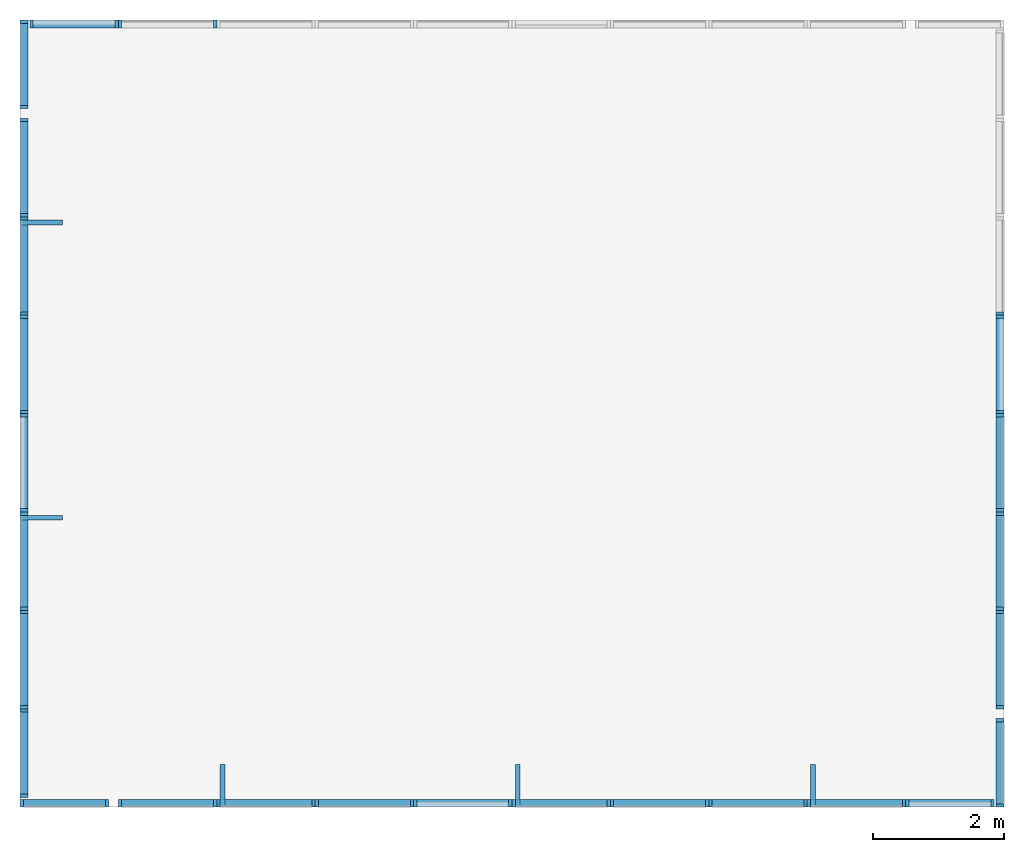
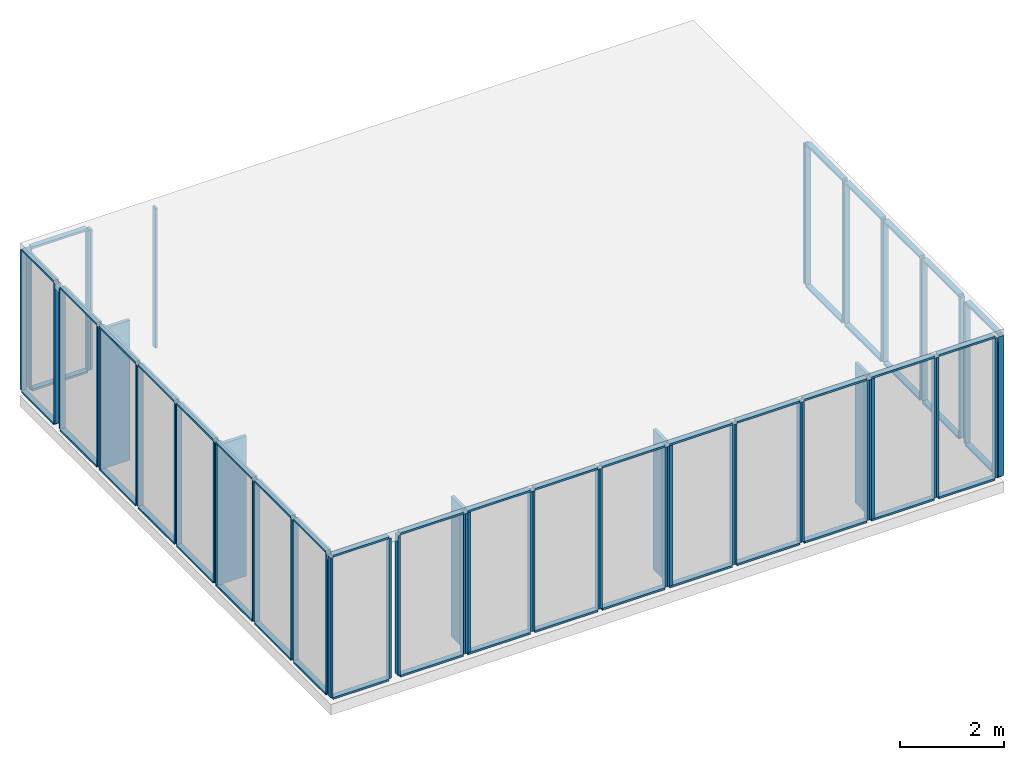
# One storey, part 1 of 2: 104 members.
"""IFC4 building model written with IfcOpenShell, lengths in metres."""

from ifc_helpers import new_model, si_unit, frame, origin_with_axes, place, context, subcontext, project, spatial, indexed_curve, outline, extrude, material, element, save


model = new_model("IFC4")

# Units and contexts
model_context = context("Model", 3, precision=1e-05, world=origin_with_axes())
body_context = subcontext(model_context, "Body", "Model", "MODEL_VIEW")
ifc_project = project(units=[si_unit("AREAUNIT", "SQUARE_METRE"), si_unit("VOLUMEUNIT", "CUBIC_METRE"), si_unit("LENGTHUNIT", "METRE")], contexts=[model_context])

# Site, building, storey
site = spatial("IfcSite", under=ifc_project, Name="Synthetic Site")
building = spatial("IfcBuilding", under=site, Name="Complex Tower")
storey_placement = place(None, frame((0.0, 0.0, 41.4), z_axis=(0.0, 0.0, 1.0), x_axis=(1.0, 0.0, 0.0)))
storey = spatial("IfcBuildingStorey", under=building, at=storey_placement, Name="L12", Elevation=41.4)

# Members
ifc_material = material(Name="Aluminium")
for number, where, z_axis, x_axis, name in (
    (1, (6.0, 3.0, 0.14999999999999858), (0.0, 0.0, 1.0), (1.0, 0.0, 0.0), "CT-L12-S-001-ML"),
    (2, (7.3, 3.0, 0.14999999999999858), (0.0, 0.0, 1.0), (1.0, 0.0, 0.0), "CT-L12-S-001-MR"),
):
    element("IfcMember", number, at=place(storey_placement, frame(where, z_axis=z_axis, x_axis=x_axis)), inside=storey, material=ifc_material, Name=name, PredefinedType="MULLION", context=body_context, shape_type="SweptSolid", body=[
        extrude(outline(indexed_curve([(0.0, 0.0), (0.0, 0.12), (0.05, 0.12), (0.05, 0.0), (0.0, 0.0)], self_intersect=False)), origin_with_axes(), (0.0, 0.0, 1.0), 3.3000000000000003),
    ])
for number, where, z_axis, x_axis, name in (
    (3, (6.05, 3.0, 0.10000000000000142), (0.0, 0.0, 1.0), (1.0, 0.0, 0.0), "CT-L12-S-001-FB"),
    (4, (6.05, 3.0, 3.4499999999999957), (0.0, 0.0, 1.0), (1.0, 0.0, 0.0), "CT-L12-S-001-FT"),
):
    element("IfcMember", number, at=place(storey_placement, frame(where, z_axis=z_axis, x_axis=x_axis)), inside=storey, material=ifc_material, Name=name, PredefinedType="MULLION", context=body_context, shape_type="SweptSolid", body=[
        extrude(outline(indexed_curve([(0.0, 0.0), (0.0, 0.12), (1.25, 0.12), (1.25, 0.0), (0.0, 0.0)], self_intersect=False)), origin_with_axes(), (0.0, 0.0, 1.0), 0.05),
    ])
for number, where, z_axis, x_axis, name in (
    (5, (7.5, 3.0, 0.14999999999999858), (0.0, 0.0, 1.0), (1.0, 0.0, 0.0), "CT-L12-S-002-ML"),
    (6, (8.95, 3.0, 0.14999999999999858), (0.0, 0.0, 1.0), (1.0, 0.0, 0.0), "CT-L12-S-002-MR"),
):
    element("IfcMember", number, at=place(storey_placement, frame(where, z_axis=z_axis, x_axis=x_axis)), inside=storey, material=ifc_material, Name=name, PredefinedType="MULLION", context=body_context, shape_type="SweptSolid", body=[
        extrude(outline(indexed_curve([(0.0, 0.0), (0.0, 0.12), (0.05, 0.12), (0.05, 0.0), (0.0, 0.0)], self_intersect=False)), origin_with_axes(), (0.0, 0.0, 1.0), 3.3000000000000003),
    ])
for number, where, z_axis, x_axis, name in (
    (7, (7.55, 3.0, 0.10000000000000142), (0.0, 0.0, 1.0), (1.0, 0.0, 0.0), "CT-L12-S-002-FB"),
    (8, (7.55, 3.0, 3.4499999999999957), (0.0, 0.0, 1.0), (1.0, 0.0, 0.0), "CT-L12-S-002-FT"),
):
    element("IfcMember", number, at=place(storey_placement, frame(where, z_axis=z_axis, x_axis=x_axis)), inside=storey, material=ifc_material, Name=name, PredefinedType="MULLION", context=body_context, shape_type="SweptSolid", body=[
        extrude(outline(indexed_curve([(0.0, 0.0), (0.0, 0.12), (1.4, 0.12), (1.4, 0.0), (0.0, 0.0)], self_intersect=False)), origin_with_axes(), (0.0, 0.0, 1.0), 0.05),
    ])
for number, where, z_axis, x_axis, name in (
    (9, (9.0, 3.0, 0.14999999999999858), (0.0, 0.0, 1.0), (1.0, 0.0, 0.0), "CT-L12-S-003-ML"),
    (10, (10.450000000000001, 3.0, 0.14999999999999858), (0.0, 0.0, 1.0), (1.0, 0.0, 0.0), "CT-L12-S-003-MR"),
):
    element("IfcMember", number, at=place(storey_placement, frame(where, z_axis=z_axis, x_axis=x_axis)), inside=storey, material=ifc_material, Name=name, PredefinedType="MULLION", context=body_context, shape_type="SweptSolid", body=[
        extrude(outline(indexed_curve([(0.0, 0.0), (0.0, 0.12), (0.05, 0.12), (0.05, 0.0), (0.0, 0.0)], self_intersect=False)), origin_with_axes(), (0.0, 0.0, 1.0), 3.3000000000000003),
    ])
for number, where, z_axis, x_axis, name in (
    (11, (9.05, 3.0, 0.10000000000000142), (0.0, 0.0, 1.0), (1.0, 0.0, 0.0), "CT-L12-S-003-FB"),
    (12, (9.05, 3.0, 3.4499999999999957), (0.0, 0.0, 1.0), (1.0, 0.0, 0.0), "CT-L12-S-003-FT"),
):
    element("IfcMember", number, at=place(storey_placement, frame(where, z_axis=z_axis, x_axis=x_axis)), inside=storey, material=ifc_material, Name=name, PredefinedType="MULLION", context=body_context, shape_type="SweptSolid", body=[
        extrude(outline(indexed_curve([(0.0, 0.0), (0.0, 0.12), (1.4, 0.12), (1.4, 0.0), (0.0, 0.0)], self_intersect=False)), origin_with_axes(), (0.0, 0.0, 1.0), 0.05),
    ])
member_1_placement = place(storey_placement, frame((9.05, 3.0, 0.14999999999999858), z_axis=(0.0, 0.0, 1.0), x_axis=(1.0, 0.0, 0.0)))
element("IfcMember", 13, at=member_1_placement, inside=storey, material=ifc_material, Name="CT-L12-S-003-FIN", ObjectType="Solar shading", PredefinedType="USERDEFINED", context=body_context, shape_type="SweptSolid", body=[
    extrude(outline(indexed_curve([(0.0, 0.0), (0.0, 0.65), (0.075, 0.65), (0.075, 0.0), (0.0, 0.0)], self_intersect=False)), origin_with_axes(), (0.0, 0.0, 1.0), 3.3000000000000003),
])
for number, where, z_axis, x_axis, name in (
    (14, (10.5, 3.0, 0.14999999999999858), (0.0, 0.0, 1.0), (1.0, 0.0, 0.0), "CT-L12-S-004-ML"),
    (15, (11.950000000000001, 3.0, 0.14999999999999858), (0.0, 0.0, 1.0), (1.0, 0.0, 0.0), "CT-L12-S-004-MR"),
):
    element("IfcMember", number, at=place(storey_placement, frame(where, z_axis=z_axis, x_axis=x_axis)), inside=storey, material=ifc_material, Name=name, PredefinedType="MULLION", context=body_context, shape_type="SweptSolid", body=[
        extrude(outline(indexed_curve([(0.0, 0.0), (0.0, 0.12), (0.05, 0.12), (0.05, 0.0), (0.0, 0.0)], self_intersect=False)), origin_with_axes(), (0.0, 0.0, 1.0), 3.3000000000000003),
    ])
for number, where, z_axis, x_axis, name in (
    (16, (10.55, 3.0, 0.10000000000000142), (0.0, 0.0, 1.0), (1.0, 0.0, 0.0), "CT-L12-S-004-FB"),
    (17, (10.55, 3.0, 3.4499999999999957), (0.0, 0.0, 1.0), (1.0, 0.0, 0.0), "CT-L12-S-004-FT"),
):
    element("IfcMember", number, at=place(storey_placement, frame(where, z_axis=z_axis, x_axis=x_axis)), inside=storey, material=ifc_material, Name=name, PredefinedType="MULLION", context=body_context, shape_type="SweptSolid", body=[
        extrude(outline(indexed_curve([(0.0, 0.0), (0.0, 0.12), (1.4, 0.12), (1.4, 0.0), (0.0, 0.0)], self_intersect=False)), origin_with_axes(), (0.0, 0.0, 1.0), 0.05),
    ])
for number, where, z_axis, x_axis, name in (
    (18, (12.0, 3.0, 0.14999999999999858), (0.0, 0.0, 1.0), (1.0, 0.0, 0.0), "CT-L12-S-005-ML"),
    (19, (13.450000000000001, 3.0, 0.14999999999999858), (0.0, 0.0, 1.0), (1.0, 0.0, 0.0), "CT-L12-S-005-MR"),
):
    element("IfcMember", number, at=place(storey_placement, frame(where, z_axis=z_axis, x_axis=x_axis)), inside=storey, material=ifc_material, Name=name, PredefinedType="MULLION", context=body_context, shape_type="SweptSolid", body=[
        extrude(outline(indexed_curve([(0.0, 0.0), (0.0, 0.12), (0.05, 0.12), (0.05, 0.0), (0.0, 0.0)], self_intersect=False)), origin_with_axes(), (0.0, 0.0, 1.0), 3.3000000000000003),
    ])
for number, where, z_axis, x_axis, name in (
    (20, (12.05, 3.0, 0.10000000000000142), (0.0, 0.0, 1.0), (1.0, 0.0, 0.0), "CT-L12-S-005-FB"),
    (21, (12.05, 3.0, 3.4499999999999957), (0.0, 0.0, 1.0), (1.0, 0.0, 0.0), "CT-L12-S-005-FT"),
):
    element("IfcMember", number, at=place(storey_placement, frame(where, z_axis=z_axis, x_axis=x_axis)), inside=storey, material=ifc_material, Name=name, PredefinedType="MULLION", context=body_context, shape_type="SweptSolid", body=[
        extrude(outline(indexed_curve([(0.0, 0.0), (0.0, 0.12), (1.4, 0.12), (1.4, 0.0), (0.0, 0.0)], self_intersect=False)), origin_with_axes(), (0.0, 0.0, 1.0), 0.05),
    ])
for number, where, z_axis, x_axis, name in (
    (22, (13.5, 3.0, 0.14999999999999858), (0.0, 0.0, 1.0), (1.0, 0.0, 0.0), "CT-L12-S-006-ML"),
    (23, (14.950000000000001, 3.0, 0.14999999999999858), (0.0, 0.0, 1.0), (1.0, 0.0, 0.0), "CT-L12-S-006-MR"),
):
    element("IfcMember", number, at=place(storey_placement, frame(where, z_axis=z_axis, x_axis=x_axis)), inside=storey, material=ifc_material, Name=name, PredefinedType="MULLION", context=body_context, shape_type="SweptSolid", body=[
        extrude(outline(indexed_curve([(0.0, 0.0), (0.0, 0.12), (0.05, 0.12), (0.05, 0.0), (0.0, 0.0)], self_intersect=False)), origin_with_axes(), (0.0, 0.0, 1.0), 3.3000000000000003),
    ])
for number, where, z_axis, x_axis, name in (
    (24, (13.55, 3.0, 0.10000000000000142), (0.0, 0.0, 1.0), (1.0, 0.0, 0.0), "CT-L12-S-006-FB"),
    (25, (13.55, 3.0, 3.4499999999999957), (0.0, 0.0, 1.0), (1.0, 0.0, 0.0), "CT-L12-S-006-FT"),
):
    element("IfcMember", number, at=place(storey_placement, frame(where, z_axis=z_axis, x_axis=x_axis)), inside=storey, material=ifc_material, Name=name, PredefinedType="MULLION", context=body_context, shape_type="SweptSolid", body=[
        extrude(outline(indexed_curve([(0.0, 0.0), (0.0, 0.12), (1.4, 0.12), (1.4, 0.0), (0.0, 0.0)], self_intersect=False)), origin_with_axes(), (0.0, 0.0, 1.0), 0.05),
    ])
member_2_placement = place(storey_placement, frame((13.55, 3.0, 0.14999999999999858), z_axis=(0.0, 0.0, 1.0), x_axis=(1.0, 0.0, 0.0)))
element("IfcMember", 26, at=member_2_placement, inside=storey, material=ifc_material, Name="CT-L12-S-006-FIN", ObjectType="Solar shading", PredefinedType="USERDEFINED", context=body_context, shape_type="SweptSolid", body=[
    extrude(outline(indexed_curve([(0.0, 0.0), (0.0, 0.65), (0.075, 0.65), (0.075, 0.0), (0.0, 0.0)], self_intersect=False)), origin_with_axes(), (0.0, 0.0, 1.0), 3.3000000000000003),
])
for number, where, z_axis, x_axis, name in (
    (27, (15.0, 3.0, 0.14999999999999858), (0.0, 0.0, 1.0), (1.0, 0.0, 0.0), "CT-L12-S-007-ML"),
    (28, (16.45, 3.0, 0.14999999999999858), (0.0, 0.0, 1.0), (1.0, 0.0, 0.0), "CT-L12-S-007-MR"),
):
    element("IfcMember", number, at=place(storey_placement, frame(where, z_axis=z_axis, x_axis=x_axis)), inside=storey, material=ifc_material, Name=name, PredefinedType="MULLION", context=body_context, shape_type="SweptSolid", body=[
        extrude(outline(indexed_curve([(0.0, 0.0), (0.0, 0.12), (0.05, 0.12), (0.05, 0.0), (0.0, 0.0)], self_intersect=False)), origin_with_axes(), (0.0, 0.0, 1.0), 3.3000000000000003),
    ])
for number, where, z_axis, x_axis, name in (
    (29, (15.05, 3.0, 0.10000000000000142), (0.0, 0.0, 1.0), (1.0, 0.0, 0.0), "CT-L12-S-007-FB"),
    (30, (15.05, 3.0, 3.4499999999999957), (0.0, 0.0, 1.0), (1.0, 0.0, 0.0), "CT-L12-S-007-FT"),
):
    element("IfcMember", number, at=place(storey_placement, frame(where, z_axis=z_axis, x_axis=x_axis)), inside=storey, material=ifc_material, Name=name, PredefinedType="MULLION", context=body_context, shape_type="SweptSolid", body=[
        extrude(outline(indexed_curve([(0.0, 0.0), (0.0, 0.12), (1.4, 0.12), (1.4, 0.0), (0.0, 0.0)], self_intersect=False)), origin_with_axes(), (0.0, 0.0, 1.0), 0.05),
    ])
for number, where, z_axis, x_axis, name in (
    (31, (16.5, 3.0, 0.14999999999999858), (0.0, 0.0, 1.0), (1.0, 0.0, 0.0), "CT-L12-S-008-ML"),
    (32, (17.95, 3.0, 0.14999999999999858), (0.0, 0.0, 1.0), (1.0, 0.0, 0.0), "CT-L12-S-008-MR"),
):
    element("IfcMember", number, at=place(storey_placement, frame(where, z_axis=z_axis, x_axis=x_axis)), inside=storey, material=ifc_material, Name=name, PredefinedType="MULLION", context=body_context, shape_type="SweptSolid", body=[
        extrude(outline(indexed_curve([(0.0, 0.0), (0.0, 0.12), (0.05, 0.12), (0.05, 0.0), (0.0, 0.0)], self_intersect=False)), origin_with_axes(), (0.0, 0.0, 1.0), 3.3000000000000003),
    ])
for number, where, z_axis, x_axis, name in (
    (33, (16.55, 3.0, 0.10000000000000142), (0.0, 0.0, 1.0), (1.0, 0.0, 0.0), "CT-L12-S-008-FB"),
    (34, (16.55, 3.0, 3.4499999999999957), (0.0, 0.0, 1.0), (1.0, 0.0, 0.0), "CT-L12-S-008-FT"),
):
    element("IfcMember", number, at=place(storey_placement, frame(where, z_axis=z_axis, x_axis=x_axis)), inside=storey, material=ifc_material, Name=name, PredefinedType="MULLION", context=body_context, shape_type="SweptSolid", body=[
        extrude(outline(indexed_curve([(0.0, 0.0), (0.0, 0.12), (1.4, 0.12), (1.4, 0.0), (0.0, 0.0)], self_intersect=False)), origin_with_axes(), (0.0, 0.0, 1.0), 0.05),
    ])
for number, where, z_axis, x_axis, name in (
    (35, (18.0, 3.0, 0.14999999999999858), (0.0, 0.0, 1.0), (1.0, 0.0, 0.0), "CT-L12-S-009-ML"),
    (36, (19.45, 3.0, 0.14999999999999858), (0.0, 0.0, 1.0), (1.0, 0.0, 0.0), "CT-L12-S-009-MR"),
):
    element("IfcMember", number, at=place(storey_placement, frame(where, z_axis=z_axis, x_axis=x_axis)), inside=storey, material=ifc_material, Name=name, PredefinedType="MULLION", context=body_context, shape_type="SweptSolid", body=[
        extrude(outline(indexed_curve([(0.0, 0.0), (0.0, 0.12), (0.05, 0.12), (0.05, 0.0), (0.0, 0.0)], self_intersect=False)), origin_with_axes(), (0.0, 0.0, 1.0), 3.3000000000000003),
    ])
for number, where, z_axis, x_axis, name in (
    (37, (18.05, 3.0, 0.10000000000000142), (0.0, 0.0, 1.0), (1.0, 0.0, 0.0), "CT-L12-S-009-FB"),
    (38, (18.05, 3.0, 3.4499999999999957), (0.0, 0.0, 1.0), (1.0, 0.0, 0.0), "CT-L12-S-009-FT"),
):
    element("IfcMember", number, at=place(storey_placement, frame(where, z_axis=z_axis, x_axis=x_axis)), inside=storey, material=ifc_material, Name=name, PredefinedType="MULLION", context=body_context, shape_type="SweptSolid", body=[
        extrude(outline(indexed_curve([(0.0, 0.0), (0.0, 0.12), (1.4, 0.12), (1.4, 0.0), (0.0, 0.0)], self_intersect=False)), origin_with_axes(), (0.0, 0.0, 1.0), 0.05),
    ])
member_3_placement = place(storey_placement, frame((18.05, 3.0, 0.14999999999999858), z_axis=(0.0, 0.0, 1.0), x_axis=(1.0, 0.0, 0.0)))
element("IfcMember", 39, at=member_3_placement, inside=storey, material=ifc_material, Name="CT-L12-S-009-FIN", ObjectType="Solar shading", PredefinedType="USERDEFINED", context=body_context, shape_type="SweptSolid", body=[
    extrude(outline(indexed_curve([(0.0, 0.0), (0.0, 0.65), (0.075, 0.65), (0.075, 0.0), (0.0, 0.0)], self_intersect=False)), origin_with_axes(), (0.0, 0.0, 1.0), 3.3000000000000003),
])
for number, where, z_axis, x_axis, name in (
    (40, (19.5, 3.0, 0.14999999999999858), (0.0, 0.0, 1.0), (1.0, 0.0, 0.0), "CT-L12-S-010-ML"),
    (41, (20.8, 3.0, 0.14999999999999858), (0.0, 0.0, 1.0), (1.0, 0.0, 0.0), "CT-L12-S-010-MR"),
):
    element("IfcMember", number, at=place(storey_placement, frame(where, z_axis=z_axis, x_axis=x_axis)), inside=storey, material=ifc_material, Name=name, PredefinedType="MULLION", context=body_context, shape_type="SweptSolid", body=[
        extrude(outline(indexed_curve([(0.0, 0.0), (0.0, 0.12), (0.05, 0.12), (0.05, 0.0), (0.0, 0.0)], self_intersect=False)), origin_with_axes(), (0.0, 0.0, 1.0), 3.3000000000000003),
    ])
for number, where, z_axis, x_axis, name in (
    (42, (19.55, 3.0, 0.10000000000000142), (0.0, 0.0, 1.0), (1.0, 0.0, 0.0), "CT-L12-S-010-FB"),
    (43, (19.55, 3.0, 3.4499999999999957), (0.0, 0.0, 1.0), (1.0, 0.0, 0.0), "CT-L12-S-010-FT"),
):
    element("IfcMember", number, at=place(storey_placement, frame(where, z_axis=z_axis, x_axis=x_axis)), inside=storey, material=ifc_material, Name=name, PredefinedType="MULLION", context=body_context, shape_type="SweptSolid", body=[
        extrude(outline(indexed_curve([(0.0, 0.0), (0.0, 0.12), (1.25, 0.12), (1.25, 0.0), (0.0, 0.0)], self_intersect=False)), origin_with_axes(), (0.0, 0.0, 1.0), 0.05),
    ])
for number, where, z_axis, x_axis, name in (
    (44, (21.0, 3.0, 0.14999999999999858), (0.0, 0.0, 1.0), (6.123233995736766e-17, 1.0, 0.0), "CT-L12-E-001-ML"),
    (45, (21.0, 4.3, 0.14999999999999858), (0.0, 0.0, 1.0), (6.123233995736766e-17, 1.0, 0.0), "CT-L12-E-001-MR"),
):
    element("IfcMember", number, at=place(storey_placement, frame(where, z_axis=z_axis, x_axis=x_axis)), inside=storey, material=ifc_material, Name=name, PredefinedType="MULLION", context=body_context, shape_type="SweptSolid", body=[
        extrude(outline(indexed_curve([(0.0, 0.0), (0.0, 0.12), (0.05, 0.12), (0.05, 0.0), (0.0, 0.0)], self_intersect=False)), origin_with_axes(), (0.0, 0.0, 1.0), 3.3000000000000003),
    ])
for number, where, z_axis, x_axis, name in (
    (46, (21.0, 3.05, 0.10000000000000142), (0.0, 0.0, 1.0), (6.123233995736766e-17, 1.0, 0.0), "CT-L12-E-001-FB"),
    (47, (21.0, 3.05, 3.4499999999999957), (0.0, 0.0, 1.0), (6.123233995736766e-17, 1.0, 0.0), "CT-L12-E-001-FT"),
):
    element("IfcMember", number, at=place(storey_placement, frame(where, z_axis=z_axis, x_axis=x_axis)), inside=storey, material=ifc_material, Name=name, PredefinedType="MULLION", context=body_context, shape_type="SweptSolid", body=[
        extrude(outline(indexed_curve([(0.0, 0.0), (0.0, 0.12), (1.25, 0.12), (1.25, 0.0), (0.0, 0.0)], self_intersect=False)), origin_with_axes(), (0.0, 0.0, 1.0), 0.05),
    ])
for number, where, z_axis, x_axis, name in (
    (48, (21.0, 4.5, 0.14999999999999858), (0.0, 0.0, 1.0), (6.123233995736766e-17, 1.0, 0.0), "CT-L12-E-002-ML"),
    (49, (21.0, 5.949999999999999, 0.14999999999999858), (0.0, 0.0, 1.0), (6.123233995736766e-17, 1.0, 0.0), "CT-L12-E-002-MR"),
):
    element("IfcMember", number, at=place(storey_placement, frame(where, z_axis=z_axis, x_axis=x_axis)), inside=storey, material=ifc_material, Name=name, PredefinedType="MULLION", context=body_context, shape_type="SweptSolid", body=[
        extrude(outline(indexed_curve([(0.0, 0.0), (0.0, 0.12), (0.05, 0.12), (0.05, 0.0), (0.0, 0.0)], self_intersect=False)), origin_with_axes(), (0.0, 0.0, 1.0), 3.3000000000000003),
    ])
for number, where, z_axis, x_axis, name in (
    (50, (21.0, 4.55, 0.10000000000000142), (0.0, 0.0, 1.0), (6.123233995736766e-17, 1.0, 0.0), "CT-L12-E-002-FB"),
    (51, (21.0, 4.55, 3.4499999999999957), (0.0, 0.0, 1.0), (6.123233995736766e-17, 1.0, 0.0), "CT-L12-E-002-FT"),
):
    element("IfcMember", number, at=place(storey_placement, frame(where, z_axis=z_axis, x_axis=x_axis)), inside=storey, material=ifc_material, Name=name, PredefinedType="MULLION", context=body_context, shape_type="SweptSolid", body=[
        extrude(outline(indexed_curve([(0.0, 0.0), (0.0, 0.12), (1.4, 0.12), (1.4, 0.0), (0.0, 0.0)], self_intersect=False)), origin_with_axes(), (0.0, 0.0, 1.0), 0.05),
    ])
for number, where, z_axis, x_axis, name in (
    (52, (21.0, 6.0, 0.14999999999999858), (0.0, 0.0, 1.0), (6.123233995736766e-17, 1.0, 0.0), "CT-L12-E-003-ML"),
    (53, (21.0, 7.449999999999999, 0.14999999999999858), (0.0, 0.0, 1.0), (6.123233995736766e-17, 1.0, 0.0), "CT-L12-E-003-MR"),
):
    element("IfcMember", number, at=place(storey_placement, frame(where, z_axis=z_axis, x_axis=x_axis)), inside=storey, material=ifc_material, Name=name, PredefinedType="MULLION", context=body_context, shape_type="SweptSolid", body=[
        extrude(outline(indexed_curve([(0.0, 0.0), (0.0, 0.12), (0.05, 0.12), (0.05, 0.0), (0.0, 0.0)], self_intersect=False)), origin_with_axes(), (0.0, 0.0, 1.0), 3.3000000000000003),
    ])
for number, where, z_axis, x_axis, name in (
    (54, (21.0, 6.05, 0.10000000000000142), (0.0, 0.0, 1.0), (6.123233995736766e-17, 1.0, 0.0), "CT-L12-E-003-FB"),
    (55, (21.0, 6.05, 3.4499999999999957), (0.0, 0.0, 1.0), (6.123233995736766e-17, 1.0, 0.0), "CT-L12-E-003-FT"),
):
    element("IfcMember", number, at=place(storey_placement, frame(where, z_axis=z_axis, x_axis=x_axis)), inside=storey, material=ifc_material, Name=name, PredefinedType="MULLION", context=body_context, shape_type="SweptSolid", body=[
        extrude(outline(indexed_curve([(0.0, 0.0), (0.0, 0.12), (1.4, 0.12), (1.4, 0.0), (0.0, 0.0)], self_intersect=False)), origin_with_axes(), (0.0, 0.0, 1.0), 0.05),
    ])
for number, where, z_axis, x_axis, name in (
    (56, (21.0, 7.5, 0.14999999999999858), (0.0, 0.0, 1.0), (6.123233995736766e-17, 1.0, 0.0), "CT-L12-E-004-ML"),
    (57, (21.0, 8.95, 0.14999999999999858), (0.0, 0.0, 1.0), (6.123233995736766e-17, 1.0, 0.0), "CT-L12-E-004-MR"),
):
    element("IfcMember", number, at=place(storey_placement, frame(where, z_axis=z_axis, x_axis=x_axis)), inside=storey, material=ifc_material, Name=name, PredefinedType="MULLION", context=body_context, shape_type="SweptSolid", body=[
        extrude(outline(indexed_curve([(0.0, 0.0), (0.0, 0.12), (0.05, 0.12), (0.05, 0.0), (0.0, 0.0)], self_intersect=False)), origin_with_axes(), (0.0, 0.0, 1.0), 3.3000000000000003),
    ])
for number, where, z_axis, x_axis, name in (
    (58, (21.0, 7.55, 0.10000000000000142), (0.0, 0.0, 1.0), (6.123233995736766e-17, 1.0, 0.0), "CT-L12-E-004-FB"),
    (59, (21.0, 7.55, 3.4499999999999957), (0.0, 0.0, 1.0), (6.123233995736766e-17, 1.0, 0.0), "CT-L12-E-004-FT"),
):
    element("IfcMember", number, at=place(storey_placement, frame(where, z_axis=z_axis, x_axis=x_axis)), inside=storey, material=ifc_material, Name=name, PredefinedType="MULLION", context=body_context, shape_type="SweptSolid", body=[
        extrude(outline(indexed_curve([(0.0, 0.0), (0.0, 0.12), (1.4, 0.12), (1.4, 0.0), (0.0, 0.0)], self_intersect=False)), origin_with_axes(), (0.0, 0.0, 1.0), 0.05),
    ])
for number, where, z_axis, x_axis, name in (
    (60, (21.0, 9.0, 0.14999999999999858), (0.0, 0.0, 1.0), (6.123233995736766e-17, 1.0, 0.0), "CT-L12-E-005-ML"),
    (61, (21.0, 10.450000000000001, 0.14999999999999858), (0.0, 0.0, 1.0), (6.123233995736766e-17, 1.0, 0.0), "CT-L12-E-005-MR"),
):
    element("IfcMember", number, at=place(storey_placement, frame(where, z_axis=z_axis, x_axis=x_axis)), inside=storey, material=ifc_material, Name=name, PredefinedType="MULLION", context=body_context, shape_type="SweptSolid", body=[
        extrude(outline(indexed_curve([(0.0, 0.0), (0.0, 0.12), (0.05, 0.12), (0.05, 0.0), (0.0, 0.0)], self_intersect=False)), origin_with_axes(), (0.0, 0.0, 1.0), 3.3000000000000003),
    ])
for number, where, z_axis, x_axis, name in (
    (62, (21.0, 9.05, 0.10000000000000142), (0.0, 0.0, 1.0), (6.123233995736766e-17, 1.0, 0.0), "CT-L12-E-005-FB"),
    (63, (21.0, 9.05, 3.4499999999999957), (0.0, 0.0, 1.0), (6.123233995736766e-17, 1.0, 0.0), "CT-L12-E-005-FT"),
):
    element("IfcMember", number, at=place(storey_placement, frame(where, z_axis=z_axis, x_axis=x_axis)), inside=storey, material=ifc_material, Name=name, PredefinedType="MULLION", context=body_context, shape_type="SweptSolid", body=[
        extrude(outline(indexed_curve([(0.0, 0.0), (0.0, 0.12), (1.4, 0.12), (1.4, 0.0), (0.0, 0.0)], self_intersect=False)), origin_with_axes(), (0.0, 0.0, 1.0), 0.05),
    ])
for number, where, z_axis, x_axis, name in (
    (64, (21.0, 10.5, 0.14999999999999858), (0.0, 0.0, 1.0), (6.123233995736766e-17, 1.0, 0.0), "CT-L12-E-006-ML"),
    (65, (9.0, 15.000000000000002, 0.14999999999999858), (0.0, 0.0, 1.0), (-1.0, 1.2246467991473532e-16, 0.0), "CT-L12-N-009-ML"),
    (66, (7.549999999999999, 15.000000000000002, 0.14999999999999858), (0.0, 0.0, 1.0), (-1.0, 1.2246467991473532e-16, 0.0), "CT-L12-N-009-MR"),
    (67, (7.499999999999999, 15.000000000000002, 0.14999999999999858), (0.0, 0.0, 1.0), (-1.0, 1.2246467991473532e-16, 0.0), "CT-L12-N-010-ML"),
    (68, (6.199999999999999, 15.000000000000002, 0.14999999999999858), (0.0, 0.0, 1.0), (-1.0, 1.2246467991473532e-16, 0.0), "CT-L12-N-010-MR"),
):
    element("IfcMember", number, at=place(storey_placement, frame(where, z_axis=z_axis, x_axis=x_axis)), inside=storey, material=ifc_material, Name=name, PredefinedType="MULLION", context=body_context, shape_type="SweptSolid", body=[
        extrude(outline(indexed_curve([(0.0, 0.0), (0.0, 0.12), (0.05, 0.12), (0.05, 0.0), (0.0, 0.0)], self_intersect=False)), origin_with_axes(), (0.0, 0.0, 1.0), 3.3000000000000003),
    ])
for number, where, z_axis, x_axis, name in (
    (69, (7.449999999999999, 15.000000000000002, 0.10000000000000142), (0.0, 0.0, 1.0), (-1.0, 1.2246467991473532e-16, 0.0), "CT-L12-N-010-FB"),
    (70, (7.449999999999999, 15.000000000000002, 3.4499999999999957), (0.0, 0.0, 1.0), (-1.0, 1.2246467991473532e-16, 0.0), "CT-L12-N-010-FT"),
):
    element("IfcMember", number, at=place(storey_placement, frame(where, z_axis=z_axis, x_axis=x_axis)), inside=storey, material=ifc_material, Name=name, PredefinedType="MULLION", context=body_context, shape_type="SweptSolid", body=[
        extrude(outline(indexed_curve([(0.0, 0.0), (0.0, 0.12), (1.25, 0.12), (1.25, 0.0), (0.0, 0.0)], self_intersect=False)), origin_with_axes(), (0.0, 0.0, 1.0), 0.05),
    ])
for number, where, z_axis, x_axis, name in (
    (71, (6.0, 15.0, 0.14999999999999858), (0.0, 0.0, 1.0), (-1.8369701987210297e-16, -1.0, 0.0), "CT-L12-W-001-ML"),
    (72, (6.0, 13.7, 0.14999999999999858), (0.0, 0.0, 1.0), (-1.8369701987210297e-16, -1.0, 0.0), "CT-L12-W-001-MR"),
):
    element("IfcMember", number, at=place(storey_placement, frame(where, z_axis=z_axis, x_axis=x_axis)), inside=storey, material=ifc_material, Name=name, PredefinedType="MULLION", context=body_context, shape_type="SweptSolid", body=[
        extrude(outline(indexed_curve([(0.0, 0.0), (0.0, 0.12), (0.05, 0.12), (0.05, 0.0), (0.0, 0.0)], self_intersect=False)), origin_with_axes(), (0.0, 0.0, 1.0), 3.3000000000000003),
    ])
for number, where, z_axis, x_axis, name in (
    (73, (6.0, 14.95, 0.10000000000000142), (0.0, 0.0, 1.0), (-1.8369701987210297e-16, -1.0, 0.0), "CT-L12-W-001-FB"),
    (74, (6.0, 14.95, 3.4499999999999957), (0.0, 0.0, 1.0), (-1.8369701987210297e-16, -1.0, 0.0), "CT-L12-W-001-FT"),
):
    element("IfcMember", number, at=place(storey_placement, frame(where, z_axis=z_axis, x_axis=x_axis)), inside=storey, material=ifc_material, Name=name, PredefinedType="MULLION", context=body_context, shape_type="SweptSolid", body=[
        extrude(outline(indexed_curve([(0.0, 0.0), (0.0, 0.12), (1.25, 0.12), (1.25, 0.0), (0.0, 0.0)], self_intersect=False)), origin_with_axes(), (0.0, 0.0, 1.0), 0.05),
    ])
for number, where, z_axis, x_axis, name in (
    (75, (6.0, 13.5, 0.14999999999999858), (0.0, 0.0, 1.0), (-1.8369701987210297e-16, -1.0, 0.0), "CT-L12-W-002-ML"),
    (76, (6.0, 12.049999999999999, 0.14999999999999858), (0.0, 0.0, 1.0), (-1.8369701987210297e-16, -1.0, 0.0), "CT-L12-W-002-MR"),
):
    element("IfcMember", number, at=place(storey_placement, frame(where, z_axis=z_axis, x_axis=x_axis)), inside=storey, material=ifc_material, Name=name, PredefinedType="MULLION", context=body_context, shape_type="SweptSolid", body=[
        extrude(outline(indexed_curve([(0.0, 0.0), (0.0, 0.12), (0.05, 0.12), (0.05, 0.0), (0.0, 0.0)], self_intersect=False)), origin_with_axes(), (0.0, 0.0, 1.0), 3.3000000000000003),
    ])
for number, where, z_axis, x_axis, name in (
    (77, (6.0, 13.45, 0.10000000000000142), (0.0, 0.0, 1.0), (-1.8369701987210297e-16, -1.0, 0.0), "CT-L12-W-002-FB"),
    (78, (6.0, 13.45, 3.4499999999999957), (0.0, 0.0, 1.0), (-1.8369701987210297e-16, -1.0, 0.0), "CT-L12-W-002-FT"),
):
    element("IfcMember", number, at=place(storey_placement, frame(where, z_axis=z_axis, x_axis=x_axis)), inside=storey, material=ifc_material, Name=name, PredefinedType="MULLION", context=body_context, shape_type="SweptSolid", body=[
        extrude(outline(indexed_curve([(0.0, 0.0), (0.0, 0.12), (1.4, 0.12), (1.4, 0.0), (0.0, 0.0)], self_intersect=False)), origin_with_axes(), (0.0, 0.0, 1.0), 0.05),
    ])
for number, where, z_axis, x_axis, name in (
    (79, (5.999999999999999, 12.0, 0.14999999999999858), (0.0, 0.0, 1.0), (-1.8369701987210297e-16, -1.0, 0.0), "CT-L12-W-003-ML"),
    (80, (5.999999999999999, 10.549999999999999, 0.14999999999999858), (0.0, 0.0, 1.0), (-1.8369701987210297e-16, -1.0, 0.0), "CT-L12-W-003-MR"),
):
    element("IfcMember", number, at=place(storey_placement, frame(where, z_axis=z_axis, x_axis=x_axis)), inside=storey, material=ifc_material, Name=name, PredefinedType="MULLION", context=body_context, shape_type="SweptSolid", body=[
        extrude(outline(indexed_curve([(0.0, 0.0), (0.0, 0.12), (0.05, 0.12), (0.05, 0.0), (0.0, 0.0)], self_intersect=False)), origin_with_axes(), (0.0, 0.0, 1.0), 3.3000000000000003),
    ])
for number, where, z_axis, x_axis, name in (
    (81, (5.999999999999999, 11.95, 0.10000000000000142), (0.0, 0.0, 1.0), (-1.8369701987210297e-16, -1.0, 0.0), "CT-L12-W-003-FB"),
    (82, (5.999999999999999, 11.95, 3.4499999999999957), (0.0, 0.0, 1.0), (-1.8369701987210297e-16, -1.0, 0.0), "CT-L12-W-003-FT"),
):
    element("IfcMember", number, at=place(storey_placement, frame(where, z_axis=z_axis, x_axis=x_axis)), inside=storey, material=ifc_material, Name=name, PredefinedType="MULLION", context=body_context, shape_type="SweptSolid", body=[
        extrude(outline(indexed_curve([(0.0, 0.0), (0.0, 0.12), (1.4, 0.12), (1.4, 0.0), (0.0, 0.0)], self_intersect=False)), origin_with_axes(), (0.0, 0.0, 1.0), 0.05),
    ])
member_4_placement = place(storey_placement, frame((5.999999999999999, 11.95, 0.14999999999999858), z_axis=(0.0, 0.0, 1.0), x_axis=(-1.8369701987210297e-16, -1.0, 0.0)))
element("IfcMember", 83, at=member_4_placement, inside=storey, material=ifc_material, Name="CT-L12-W-003-FIN", ObjectType="Solar shading", PredefinedType="USERDEFINED", context=body_context, shape_type="SweptSolid", body=[
    extrude(outline(indexed_curve([(0.0, 0.0), (0.0, 0.65), (0.075, 0.65), (0.075, 0.0), (0.0, 0.0)], self_intersect=False)), origin_with_axes(), (0.0, 0.0, 1.0), 3.3000000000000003),
])
for number, where, z_axis, x_axis, name in (
    (84, (5.999999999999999, 10.5, 0.14999999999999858), (0.0, 0.0, 1.0), (-1.8369701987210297e-16, -1.0, 0.0), "CT-L12-W-004-ML"),
    (85, (5.999999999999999, 9.049999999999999, 0.14999999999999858), (0.0, 0.0, 1.0), (-1.8369701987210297e-16, -1.0, 0.0), "CT-L12-W-004-MR"),
):
    element("IfcMember", number, at=place(storey_placement, frame(where, z_axis=z_axis, x_axis=x_axis)), inside=storey, material=ifc_material, Name=name, PredefinedType="MULLION", context=body_context, shape_type="SweptSolid", body=[
        extrude(outline(indexed_curve([(0.0, 0.0), (0.0, 0.12), (0.05, 0.12), (0.05, 0.0), (0.0, 0.0)], self_intersect=False)), origin_with_axes(), (0.0, 0.0, 1.0), 3.3000000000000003),
    ])
for number, where, z_axis, x_axis, name in (
    (86, (5.999999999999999, 10.45, 0.10000000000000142), (0.0, 0.0, 1.0), (-1.8369701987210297e-16, -1.0, 0.0), "CT-L12-W-004-FB"),
    (87, (5.999999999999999, 10.45, 3.4499999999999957), (0.0, 0.0, 1.0), (-1.8369701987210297e-16, -1.0, 0.0), "CT-L12-W-004-FT"),
):
    element("IfcMember", number, at=place(storey_placement, frame(where, z_axis=z_axis, x_axis=x_axis)), inside=storey, material=ifc_material, Name=name, PredefinedType="MULLION", context=body_context, shape_type="SweptSolid", body=[
        extrude(outline(indexed_curve([(0.0, 0.0), (0.0, 0.12), (1.4, 0.12), (1.4, 0.0), (0.0, 0.0)], self_intersect=False)), origin_with_axes(), (0.0, 0.0, 1.0), 0.05),
    ])
for number, where, z_axis, x_axis, name in (
    (88, (5.999999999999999, 9.0, 0.14999999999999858), (0.0, 0.0, 1.0), (-1.8369701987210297e-16, -1.0, 0.0), "CT-L12-W-005-ML"),
    (89, (5.999999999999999, 7.549999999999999, 0.14999999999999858), (0.0, 0.0, 1.0), (-1.8369701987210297e-16, -1.0, 0.0), "CT-L12-W-005-MR"),
):
    element("IfcMember", number, at=place(storey_placement, frame(where, z_axis=z_axis, x_axis=x_axis)), inside=storey, material=ifc_material, Name=name, PredefinedType="MULLION", context=body_context, shape_type="SweptSolid", body=[
        extrude(outline(indexed_curve([(0.0, 0.0), (0.0, 0.12), (0.05, 0.12), (0.05, 0.0), (0.0, 0.0)], self_intersect=False)), origin_with_axes(), (0.0, 0.0, 1.0), 3.3000000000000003),
    ])
for number, where, z_axis, x_axis, name in (
    (90, (5.999999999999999, 8.95, 0.10000000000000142), (0.0, 0.0, 1.0), (-1.8369701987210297e-16, -1.0, 0.0), "CT-L12-W-005-FB"),
    (91, (5.999999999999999, 8.95, 3.4499999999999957), (0.0, 0.0, 1.0), (-1.8369701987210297e-16, -1.0, 0.0), "CT-L12-W-005-FT"),
):
    element("IfcMember", number, at=place(storey_placement, frame(where, z_axis=z_axis, x_axis=x_axis)), inside=storey, material=ifc_material, Name=name, PredefinedType="MULLION", context=body_context, shape_type="SweptSolid", body=[
        extrude(outline(indexed_curve([(0.0, 0.0), (0.0, 0.12), (1.4, 0.12), (1.4, 0.0), (0.0, 0.0)], self_intersect=False)), origin_with_axes(), (0.0, 0.0, 1.0), 0.05),
    ])
for number, where, z_axis, x_axis, name in (
    (92, (5.999999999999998, 7.5, 0.14999999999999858), (0.0, 0.0, 1.0), (-1.8369701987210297e-16, -1.0, 0.0), "CT-L12-W-006-ML"),
    (93, (5.999999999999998, 6.050000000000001, 0.14999999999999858), (0.0, 0.0, 1.0), (-1.8369701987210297e-16, -1.0, 0.0), "CT-L12-W-006-MR"),
):
    element("IfcMember", number, at=place(storey_placement, frame(where, z_axis=z_axis, x_axis=x_axis)), inside=storey, material=ifc_material, Name=name, PredefinedType="MULLION", context=body_context, shape_type="SweptSolid", body=[
        extrude(outline(indexed_curve([(0.0, 0.0), (0.0, 0.12), (0.05, 0.12), (0.05, 0.0), (0.0, 0.0)], self_intersect=False)), origin_with_axes(), (0.0, 0.0, 1.0), 3.3000000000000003),
    ])
for number, where, z_axis, x_axis, name in (
    (94, (5.999999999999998, 7.45, 0.10000000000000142), (0.0, 0.0, 1.0), (-1.8369701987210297e-16, -1.0, 0.0), "CT-L12-W-006-FB"),
    (95, (5.999999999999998, 7.45, 3.4499999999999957), (0.0, 0.0, 1.0), (-1.8369701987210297e-16, -1.0, 0.0), "CT-L12-W-006-FT"),
):
    element("IfcMember", number, at=place(storey_placement, frame(where, z_axis=z_axis, x_axis=x_axis)), inside=storey, material=ifc_material, Name=name, PredefinedType="MULLION", context=body_context, shape_type="SweptSolid", body=[
        extrude(outline(indexed_curve([(0.0, 0.0), (0.0, 0.12), (1.4, 0.12), (1.4, 0.0), (0.0, 0.0)], self_intersect=False)), origin_with_axes(), (0.0, 0.0, 1.0), 0.05),
    ])
member_5_placement = place(storey_placement, frame((5.999999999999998, 7.45, 0.14999999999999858), z_axis=(0.0, 0.0, 1.0), x_axis=(-1.8369701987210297e-16, -1.0, 0.0)))
element("IfcMember", 96, at=member_5_placement, inside=storey, material=ifc_material, Name="CT-L12-W-006-FIN", ObjectType="Solar shading", PredefinedType="USERDEFINED", context=body_context, shape_type="SweptSolid", body=[
    extrude(outline(indexed_curve([(0.0, 0.0), (0.0, 0.65), (0.075, 0.65), (0.075, 0.0), (0.0, 0.0)], self_intersect=False)), origin_with_axes(), (0.0, 0.0, 1.0), 3.3000000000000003),
])
for number, where, z_axis, x_axis, name in (
    (97, (5.999999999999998, 5.999999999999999, 0.14999999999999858), (0.0, 0.0, 1.0), (-1.8369701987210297e-16, -1.0, 0.0), "CT-L12-W-007-ML"),
    (98, (5.999999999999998, 4.549999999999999, 0.14999999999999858), (0.0, 0.0, 1.0), (-1.8369701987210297e-16, -1.0, 0.0), "CT-L12-W-007-MR"),
):
    element("IfcMember", number, at=place(storey_placement, frame(where, z_axis=z_axis, x_axis=x_axis)), inside=storey, material=ifc_material, Name=name, PredefinedType="MULLION", context=body_context, shape_type="SweptSolid", body=[
        extrude(outline(indexed_curve([(0.0, 0.0), (0.0, 0.12), (0.05, 0.12), (0.05, 0.0), (0.0, 0.0)], self_intersect=False)), origin_with_axes(), (0.0, 0.0, 1.0), 3.3000000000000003),
    ])
for number, where, z_axis, x_axis, name in (
    (99, (5.999999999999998, 5.949999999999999, 0.10000000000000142), (0.0, 0.0, 1.0), (-1.8369701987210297e-16, -1.0, 0.0), "CT-L12-W-007-FB"),
    (100, (5.999999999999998, 5.949999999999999, 3.4499999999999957), (0.0, 0.0, 1.0), (-1.8369701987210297e-16, -1.0, 0.0), "CT-L12-W-007-FT"),
):
    element("IfcMember", number, at=place(storey_placement, frame(where, z_axis=z_axis, x_axis=x_axis)), inside=storey, material=ifc_material, Name=name, PredefinedType="MULLION", context=body_context, shape_type="SweptSolid", body=[
        extrude(outline(indexed_curve([(0.0, 0.0), (0.0, 0.12), (1.4, 0.12), (1.4, 0.0), (0.0, 0.0)], self_intersect=False)), origin_with_axes(), (0.0, 0.0, 1.0), 0.05),
    ])
for number, where, z_axis, x_axis, name in (
    (101, (5.999999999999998, 4.499999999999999, 0.14999999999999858), (0.0, 0.0, 1.0), (-1.8369701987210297e-16, -1.0, 0.0), "CT-L12-W-008-ML"),
    (102, (5.999999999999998, 3.1999999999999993, 0.14999999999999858), (0.0, 0.0, 1.0), (-1.8369701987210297e-16, -1.0, 0.0), "CT-L12-W-008-MR"),
):
    element("IfcMember", number, at=place(storey_placement, frame(where, z_axis=z_axis, x_axis=x_axis)), inside=storey, material=ifc_material, Name=name, PredefinedType="MULLION", context=body_context, shape_type="SweptSolid", body=[
        extrude(outline(indexed_curve([(0.0, 0.0), (0.0, 0.12), (0.05, 0.12), (0.05, 0.0), (0.0, 0.0)], self_intersect=False)), origin_with_axes(), (0.0, 0.0, 1.0), 3.3000000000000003),
    ])
for number, where, z_axis, x_axis, name in (
    (103, (5.999999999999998, 4.449999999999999, 0.10000000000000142), (0.0, 0.0, 1.0), (-1.8369701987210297e-16, -1.0, 0.0), "CT-L12-W-008-FB"),
    (104, (5.999999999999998, 4.449999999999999, 3.4499999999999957), (0.0, 0.0, 1.0), (-1.8369701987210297e-16, -1.0, 0.0), "CT-L12-W-008-FT"),
):
    element("IfcMember", number, at=place(storey_placement, frame(where, z_axis=z_axis, x_axis=x_axis)), inside=storey, material=ifc_material, Name=name, PredefinedType="MULLION", context=body_context, shape_type="SweptSolid", body=[
        extrude(outline(indexed_curve([(0.0, 0.0), (0.0, 0.12), (1.25, 0.12), (1.25, 0.0), (0.0, 0.0)], self_intersect=False)), origin_with_axes(), (0.0, 0.0, 1.0), 0.05),
    ])

save(model, "model.ifc")
